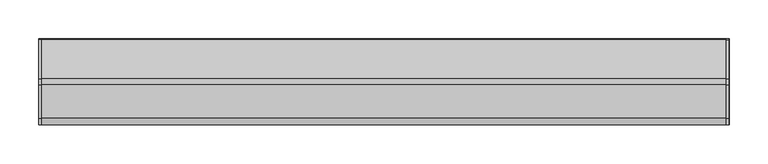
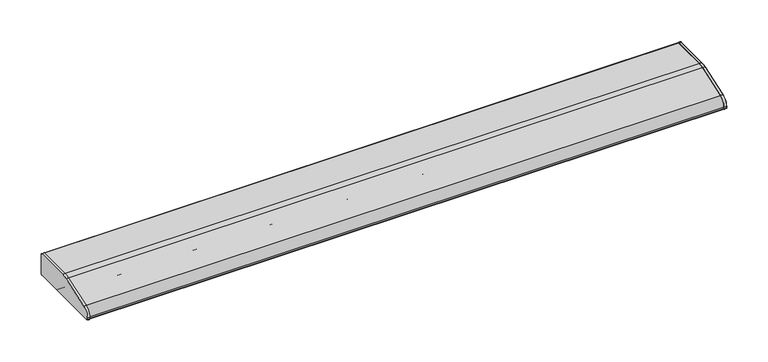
"""IFC4 building model written with IfcOpenShell, lengths in millimetres: light fixture geometry, HermanMiller_SupplementalProducts_G6136_UtilityTaskLight : AO Etho Canvas 42W."""

import ifcopenshell
import ifcopenshell.guid

model = None  # the IFC model being written
_history = None  # IfcOwnerHistory: only IFC2X3 demands one
_inside = {}  # id of a spatial element -> (the spatial element, [elements in it])
_under = {}  # id of a project, library or spatial element -> (it, [spatial elements below it])
_declared = {}  # id of a project -> (the project, [libraries it declares])
_typed = {}  # id of a type object -> (the type object, [elements of that type])
_made_of = {}  # id of a material, layer set ... -> (it, [elements and type objects made of it])


def new_model(schema):
    """Start an empty IFC model of exactly this schema.

    Asked for "IFC4X3", IfcOpenShell would pick the latest addendum, in which some entities
    have other attributes; the version numbers below select the first issue.
    IFC2X3 requires an IfcOwnerHistory on every rooted entity: one is made here for all.
    """
    global model, _history
    if schema == "IFC4X3":
        model = ifcopenshell.file(schema_version=(4, 3, 0, 0))
    else:
        model = ifcopenshell.file(schema=schema)
    _inside.clear()
    _under.clear()
    _declared.clear()
    _typed.clear()
    _made_of.clear()
    _history = None
    if model.schema == "IFC2X3":
        org = make("IfcOrganization", Name="unknown")
        user = make(
            "IfcPersonAndOrganization",
            ThePerson=make("IfcPerson", FamilyName="unknown"),
            TheOrganization=org,
        )
        app = make(
            "IfcApplication",
            ApplicationDeveloper=org,
            Version="unknown",
            ApplicationFullName="unknown",
            ApplicationIdentifier="unknown",
        )
        _history = make(
            "IfcOwnerHistory",
            OwningUser=user,
            OwningApplication=app,
            ChangeAction="ADDED",
            CreationDate=0,
        )
    return model


def make(cls, **values):
    """One entity of the class cls with the attributes given. An attribute that is None is left unset."""
    return model.create_entity(
        cls, **{name: value for name, value in values.items() if value is not None}
    )


def rooted(cls, **values):
    """An entity with a GlobalId (a new one), such as an element, a storey or a relation."""
    return make(cls, GlobalId=ifcopenshell.guid.new(), OwnerHistory=_history, **values)


def si_unit(unit_type, name, prefix=None):
    """IfcSIUnit, for example si_unit("LENGTHUNIT", "METRE", prefix="MILLI")."""
    return make("IfcSIUnit", UnitType=unit_type, Prefix=prefix, Name=name)


def assignment(units):
    """IfcUnitAssignment: the units of a project."""
    return None if units is None else make("IfcUnitAssignment", Units=units)


def point(xyz):
    """IfcCartesianPoint."""
    return None if xyz is None else make("IfcCartesianPoint", Coordinates=xyz)


def direction(xyz):
    """IfcDirection."""
    return None if xyz is None else make("IfcDirection", DirectionRatios=xyz)


def frame(location, z_axis=None, x_axis=None):
    """IfcAxis2Placement3D, a coordinate frame: its origin and axes. An axis left out is left unset."""
    return make(
        "IfcAxis2Placement3D",
        Location=point(location),
        Axis=direction(z_axis),
        RefDirection=direction(x_axis),
    )


def frame_2d(location, x_axis=None):
    """IfcAxis2Placement2D, a coordinate frame in the plane: its origin and x axis."""
    return make(
        "IfcAxis2Placement2D", Location=point(location), RefDirection=direction(x_axis)
    )


def origin():
    """The frame at (0, 0, 0) with its axes left unset."""
    return frame((0.0, 0.0, 0.0))


def place(relative_to, where):
    """IfcLocalPlacement: puts the frame where relative to a parent placement (None: the world)."""
    return make(
        "IfcLocalPlacement", PlacementRelTo=relative_to, RelativePlacement=where
    )


def context(
    kind, dimensions, precision=None, world=None, true_north=None, identifier=None
):
    """IfcGeometricRepresentationContext, for example the 3D "Model" context."""
    return make(
        "IfcGeometricRepresentationContext",
        ContextIdentifier=identifier,
        ContextType=kind,
        CoordinateSpaceDimension=dimensions,
        Precision=precision,
        WorldCoordinateSystem=world,
        TrueNorth=true_north,
    )


def project(units=None, contexts=None):
    """IfcProject with its units and contexts."""
    return rooted(
        "IfcProject",
        Name="project",
        RepresentationContexts=contexts,
        UnitsInContext=assignment(units),
    )


def spatial(cls, under=None, at=None, **own):
    """A site, building, storey or space (cls), placed at a placement, below another one or the project."""
    s = rooted(cls, ObjectPlacement=at, **own)
    if under is not None:
        _under.setdefault(under.id(), (under, []))[1].append(s)
    return s


def polyline(points):
    """IfcPolyline through the points."""
    return make("IfcPolyline", Points=[point(p) for p in points])


def circle_curve(where, radius):
    """IfcCircle in the frame where."""
    return make("IfcCircle", Position=where, Radius=radius)


def trimmed(basis, trim1, trim2, sense, master):
    """IfcTrimmedCurve: the piece of a basis curve between two trims."""
    return make(
        "IfcTrimmedCurve",
        BasisCurve=basis,
        Trim1=trim1,
        Trim2=trim2,
        SenseAgreement=sense,
        MasterRepresentation=master,
    )


def segment(curve, same_sense, transition):
    """IfcCompositeCurveSegment."""
    return make(
        "IfcCompositeCurveSegment",
        Transition=transition,
        SameSense=same_sense,
        ParentCurve=curve,
    )


def composite_curve(segments, self_intersect=None):
    """IfcCompositeCurve: segments joined end to end."""
    return make("IfcCompositeCurve", Segments=segments, SelfIntersect=self_intersect)


def outline(outer, holes=None, kind="AREA"):
    """IfcArbitraryClosedProfileDef: a profile drawn as a closed curve; with holes, ...WithVoids."""
    if holes is None:
        return make("IfcArbitraryClosedProfileDef", ProfileType=kind, OuterCurve=outer)
    return make(
        "IfcArbitraryProfileDefWithVoids",
        ProfileType=kind,
        OuterCurve=outer,
        InnerCurves=holes,
    )


def extrude(swept, where, along, depth):
    """IfcExtrudedAreaSolid: the profile swept, set in the frame where, extruded along a direction by depth."""
    return make(
        "IfcExtrudedAreaSolid",
        SweptArea=swept,
        Position=where,
        ExtrudedDirection=direction(along),
        Depth=depth,
    )


def shape(context_of_items, identifier, shape_type, items):
    """IfcShapeRepresentation: the items that make up one representation, for example the "Body"."""
    return make(
        "IfcShapeRepresentation",
        ContextOfItems=context_of_items,
        RepresentationIdentifier=identifier,
        RepresentationType=shape_type,
        Items=items,
    )


def source(mapping_origin, context_of_items, identifier, shape_type, items):
    """IfcRepresentationMap: a shape defined once, which mapped items show again and again."""
    return make(
        "IfcRepresentationMap",
        MappingOrigin=mapping_origin,
        MappedRepresentation=shape(context_of_items, identifier, shape_type, items),
    )


def transform(
    local_origin,
    x_axis=None,
    y_axis=None,
    z_axis=None,
    scale=None,
    scale2=None,
    scale3=None,
    uniform=True,
):
    """IfcCartesianTransformationOperator3D, or its non-uniform kind. x_axis, y_axis, z_axis: its Axis1, 2, 3."""
    if uniform:
        return make(
            "IfcCartesianTransformationOperator3D",
            Axis1=direction(x_axis),
            Axis2=direction(y_axis),
            LocalOrigin=point(local_origin),
            Scale=scale,
            Axis3=direction(z_axis),
        )
    return make(
        "IfcCartesianTransformationOperator3DnonUniform",
        Axis1=direction(x_axis),
        Axis2=direction(y_axis),
        LocalOrigin=point(local_origin),
        Scale=scale,
        Axis3=direction(z_axis),
        Scale2=scale2,
        Scale3=scale3,
    )


def mapped(mapping_source, mapping_target):
    """IfcMappedItem: shows the shape of a source again, moved by a transform."""
    return make(
        "IfcMappedItem", MappingSource=mapping_source, MappingTarget=mapping_target
    )


def made_of(thing, what):
    """Note that an element or type object is made of a material, layer set ...; save() writes the relation."""
    if what is not None:
        _made_of.setdefault(what.id(), (what, []))[1].append(thing)
    return thing


def element(
    cls,
    number,
    at=None,
    inside=None,
    cuts=None,
    type_object=None,
    material=None,
    context=None,
    identifier="Body",
    shape_type=None,
    held_by="IfcProductDefinitionShape",
    body=None,
    shapes=None,
    **own,
):
    """One element of the class cls, such as IfcWall. Its Tag is "e" and its number.

    at: its placement. inside: the storey or other place that contains it. cuts: it is an
    opening in that element (IfcRelVoidsElement). A single representation is given by context,
    identifier, shape_type and body (its items); several are given by shapes. held_by: the class
    of the entity that holds the representations. save() writes the other relations.
    """
    e = rooted(cls, Tag="e%d" % number, ObjectPlacement=at, **own)
    if body is not None:
        shapes = [shape(context, identifier, shape_type, body)]
    if shapes is not None:
        e.Representation = make(held_by, Representations=shapes)
    if inside is not None:
        _inside.setdefault(inside.id(), (inside, []))[1].append(e)
    if cuts is not None:
        rooted(
            "IfcRelVoidsElement", RelatingBuildingElement=cuts, RelatedOpeningElement=e
        )
    if type_object is not None:
        _typed.setdefault(type_object.id(), (type_object, []))[1].append(e)
    return made_of(e, material)


def aggregate(whole, parts):
    """IfcRelAggregates: a whole, such as a stair, and the parts it consists of."""
    return rooted("IfcRelAggregates", RelatingObject=whole, RelatedObjects=parts)


def save(model, path):
    """Write the relations noted so far, then the file.

    IfcRelAggregates (storeys below a building ...), IfcRelContainedInSpatialStructure (elements
    in a storey), IfcRelDefinesByType, IfcRelAssociatesMaterial and IfcRelDeclares: one each for
    every whole, place, type object, material and project.
    """
    for whole, parts in _under.values():
        aggregate(whole, parts)
    for where, things in _inside.values():
        rooted(
            "IfcRelContainedInSpatialStructure",
            RelatedElements=things,
            RelatingStructure=where,
        )
    for kind, things in _typed.values():
        rooted("IfcRelDefinesByType", RelatedObjects=things, RelatingType=kind)
    for what, things in _made_of.values():
        rooted("IfcRelAssociatesMaterial", RelatedObjects=things, RelatingMaterial=what)
    for by, libraries in _declared.values():
        rooted("IfcRelDeclares", RelatingContext=by, RelatedDefinitions=libraries)
    model.write(path)


def light_fixture_5a12cc18(model_context):
    return source(origin(), model_context, "Body", "SweptSolid", [
        extrude(outline(composite_curve([segment(polyline([(53.975, 1270.0), (-53.975, 1270.0)]), True, "CONTINUOUS"), segment(trimmed(circle_curve(frame_2d((-53.975, 1271.5875)), 1.5875), [point((-53.975, 1270.0))], [point((-55.5625, 1271.5875))], False, "CARTESIAN"), True, "CONTINUOUS"), segment(polyline([(-55.5625, 1271.5875), (-55.5625, 1273.6285714)]), True, "CONTINUOUS"), segment(trimmed(circle_curve(frame_2d((-42.8625, 1273.6285714)), 12.7), [point((-55.5625, 1273.6285714))], [point((-46.9814189, 1285.6420849))], False, "CARTESIAN"), True, "CONTINUOUS"), segment(polyline([(-46.9814189, 1285.6420849), (-4.0045045, 1300.377027)]), True, "CONTINUOUS"), segment(trimmed(circle_curve(frame_2d((4.2333333, 1276.35)), 25.4), [point((-4.0045045, 1300.377027))], [point((4.2333333, 1301.75))], False, "CARTESIAN"), True, "CONTINUOUS"), segment(polyline([(4.2333333, 1301.75), (53.975, 1301.75)]), True, "CONTINUOUS"), segment(trimmed(circle_curve(frame_2d((53.975, 1300.1625)), 1.5875), [point((53.975, 1301.75))], [point((55.5625, 1300.1625))], False, "CARTESIAN"), True, "CONTINUOUS"), segment(polyline([(55.5625, 1300.1625), (55.5625, 1271.5875)]), True, "CONTINUOUS"), segment(trimmed(circle_curve(frame_2d((53.975, 1271.5875)), 1.5875), [point((55.5625, 1271.5875))], [point((53.975, 1270.0))], False, "CARTESIAN"), True, "CONTINUOUS")], self_intersect=False)), frame((441.833, 0.0, 0.0), z_axis=(1.0, 0.0, 0.0), x_axis=(0.0, 1.0, 0.0)), (0.0, 0.0, 1.0), 3.175),
        extrude(outline(composite_curve([segment(trimmed(circle_curve(frame_2d((53.975, 1300.1625)), 1.5875), [point((53.975, 1301.75))], [point((55.5625, 1300.1625))], False, "CARTESIAN"), True, "CONTINUOUS"), segment(polyline([(55.5625, 1300.1625), (55.5625, 1271.5875)]), True, "CONTINUOUS"), segment(trimmed(circle_curve(frame_2d((53.975, 1271.5875)), 1.5875), [point((55.5625, 1271.5875))], [point((53.975, 1270.0))], False, "CARTESIAN"), True, "CONTINUOUS"), segment(polyline([(53.975, 1270.0), (-53.975, 1270.0)]), True, "CONTINUOUS"), segment(trimmed(circle_curve(frame_2d((-53.975, 1271.5875)), 1.5875), [point((-53.975, 1270.0))], [point((-55.5625, 1271.5875))], False, "CARTESIAN"), True, "CONTINUOUS"), segment(polyline([(-55.5625, 1271.5875), (-55.5625, 1273.6285714)]), True, "CONTINUOUS"), segment(trimmed(circle_curve(frame_2d((-42.8625, 1273.6285714)), 12.7), [point((-55.5625, 1273.6285714))], [point((-46.9814189, 1285.6420849))], False, "CARTESIAN"), True, "CONTINUOUS"), segment(polyline([(-46.9814189, 1285.6420849), (-4.0045045, 1300.377027)]), True, "CONTINUOUS"), segment(trimmed(circle_curve(frame_2d((4.2333333, 1276.35)), 25.4), [point((-4.0045045, 1300.377027))], [point((4.2333333, 1301.75))], False, "CARTESIAN"), True, "CONTINUOUS"), segment(polyline([(4.2333333, 1301.75), (53.975, 1301.75)]), True, "CONTINUOUS")], self_intersect=False)), frame((-445.008, 0.0, 0.0), z_axis=(1.0, 0.0, 0.0), x_axis=(0.0, 1.0, 0.0)), (0.0, 0.0, 1.0), 3.175),
        extrude(outline(composite_curve([segment(polyline([(55.5625, 1300.1625), (55.5625, 1271.5875)]), True, "CONTINUOUS"), segment(trimmed(circle_curve(frame_2d((53.975, 1271.5875)), 1.5875), [point((55.5625, 1271.5875))], [point((53.975, 1270.0))], False, "CARTESIAN"), True, "CONTINUOUS"), segment(polyline([(53.975, 1270.0), (19.05, 1270.0)]), True, "CONTINUOUS"), segment(trimmed(circle_curve(frame_2d((19.05, 1271.5875)), 1.5875), [point((19.05, 1270.0))], [point((17.4625, 1271.5875))], False, "CARTESIAN"), True, "CONTINUOUS"), segment(polyline([(17.4625, 1271.5875), (17.4625, 1300.1625), (4.4979167, 1300.1625)]), True, "CONTINUOUS"), segment(trimmed(circle_curve(frame_2d((4.4979167, 1274.7625)), 25.4), [point((4.4979167, 1300.1625))], [point((-3.7399212, 1298.789527))], True, "CARTESIAN"), True, "CONTINUOUS"), segment(polyline([(-3.7399212, 1298.789527), (-37.4564189, 1287.2295849)]), True, "CONTINUOUS"), segment(trimmed(circle_curve(frame_2d((-33.3375, 1275.2160714)), 12.7), [point((-37.4564189, 1287.2295849))], [point((-46.0375, 1275.2160714))], True, "CARTESIAN"), True, "CONTINUOUS"), segment(polyline([(-46.0375, 1275.2160714), (-46.0375, 1271.5875)]), True, "CONTINUOUS"), segment(trimmed(circle_curve(frame_2d((-47.625, 1271.5875)), 1.5875), [point((-46.0375, 1271.5875))], [point((-47.625, 1270.0))], False, "CARTESIAN"), True, "CONTINUOUS"), segment(polyline([(-47.625, 1270.0), (-53.975, 1270.0)]), True, "CONTINUOUS"), segment(trimmed(circle_curve(frame_2d((-53.975, 1271.5875)), 1.5875), [point((-53.975, 1270.0))], [point((-55.5625, 1271.5875))], False, "CARTESIAN"), True, "CONTINUOUS"), segment(polyline([(-55.5625, 1271.5875), (-55.5625, 1273.6285714)]), True, "CONTINUOUS"), segment(trimmed(circle_curve(frame_2d((-42.8625, 1273.6285714)), 12.7), [point((-55.5625, 1273.6285714))], [point((-46.9814189, 1285.6420849))], False, "CARTESIAN"), True, "CONTINUOUS"), segment(polyline([(-46.9814189, 1285.6420849), (-4.0045045, 1300.377027)]), True, "CONTINUOUS"), segment(trimmed(circle_curve(frame_2d((4.2333333, 1276.35)), 25.4), [point((-4.0045045, 1300.377027))], [point((4.2333333, 1301.75))], False, "CARTESIAN"), True, "CONTINUOUS"), segment(polyline([(4.2333333, 1301.75), (53.975, 1301.75)]), True, "CONTINUOUS"), segment(trimmed(circle_curve(frame_2d((53.975, 1300.1625)), 1.5875), [point((53.975, 1301.75))], [point((55.5625, 1300.1625))], False, "CARTESIAN"), True, "CONTINUOUS")], self_intersect=False)), frame((-445.008, 0.0, 0.0), z_axis=(1.0, 0.0, 0.0), x_axis=(0.0, 1.0, 0.0)), (0.0, 0.0, 1.0), 890.4820011),
        extrude(outline(composite_curve([segment(trimmed(circle_curve(frame_2d((1.5875, 1287.4625)), 9.525), [point((-7.9375, 1287.4625))], [point((11.1125, 1287.4625))], False, "CARTESIAN"), True, "CONTINUOUS"), segment(trimmed(circle_curve(frame_2d((1.5875, 1287.4625)), 9.525), [point((11.1125, 1287.4625))], [point((-7.9375, 1287.4625))], False, "CARTESIAN"), True, "CONTINUOUS")], self_intersect=False)), frame((419.608, 0.0, 0.0), z_axis=(1.0, 0.0, 0.0), x_axis=(0.0, 1.0, 0.0)), (0.0, 0.0, 1.0), 12.7),
        extrude(outline(composite_curve([segment(trimmed(circle_curve(frame_2d((1.5875, 1287.4625)), 9.525), [point((-7.9375, 1287.4625))], [point((11.1125, 1287.4625))], False, "CARTESIAN"), True, "CONTINUOUS"), segment(trimmed(circle_curve(frame_2d((1.5875, 1287.4625)), 9.525), [point((11.1125, 1287.4625))], [point((-7.9375, 1287.4625))], False, "CARTESIAN"), True, "CONTINUOUS")], self_intersect=False)), frame((-432.308, 0.0, 0.0), z_axis=(1.0, 0.0, 0.0), x_axis=(0.0, 1.0, 0.0)), (0.0, 0.0, 1.0), 12.7),
        extrude(outline(composite_curve([segment(trimmed(circle_curve(frame_2d((1.5875, 1287.4625)), 9.525), [point((-7.9375, 1287.4625))], [point((11.1125, 1287.4625))], False, "CARTESIAN"), True, "CONTINUOUS"), segment(trimmed(circle_curve(frame_2d((1.5875, 1287.4625)), 9.525), [point((11.1125, 1287.4625))], [point((-7.9375, 1287.4625))], False, "CARTESIAN"), True, "CONTINUOUS")], self_intersect=False)), frame((-419.608, 0.0, 0.0), z_axis=(1.0, 0.0, 0.0), x_axis=(0.0, 1.0, 0.0)), (0.0, 0.0, 1.0), 839.216),
        extrude(outline(composite_curve([segment(polyline([(17.4625, 1273.175), (-46.0375, 1273.175), (-46.0375, 1275.2160714)]), True, "CONTINUOUS"), segment(trimmed(circle_curve(frame_2d((-33.3375, 1275.2160714)), 12.7), [point((-46.0375, 1275.2160714))], [point((-37.4564189, 1287.2295849))], False, "CARTESIAN"), True, "CONTINUOUS"), segment(polyline([(-37.4564189, 1287.2295849), (-3.7399212, 1298.789527)]), True, "CONTINUOUS"), segment(trimmed(circle_curve(frame_2d((4.4979167, 1274.7625)), 25.4), [point((-3.7399212, 1298.789527))], [point((4.4979167, 1300.1625))], False, "CARTESIAN"), True, "CONTINUOUS"), segment(polyline([(4.4979167, 1300.1625), (17.4625, 1300.1625), (17.4625, 1273.175)]), True, "CONTINUOUS")], self_intersect=False)), frame((432.308, 0.0, 0.0), z_axis=(1.0, 0.0, 0.0), x_axis=(0.0, 1.0, 0.0)), (0.0, 0.0, 1.0), 9.525),
        extrude(outline(composite_curve([segment(polyline([(17.4625, 1273.175), (-46.0375, 1273.175), (-46.0375, 1275.2160714)]), True, "CONTINUOUS"), segment(trimmed(circle_curve(frame_2d((-33.3375, 1275.2160714)), 12.7), [point((-46.0375, 1275.2160714))], [point((-37.4564189, 1287.2295849))], False, "CARTESIAN"), True, "CONTINUOUS"), segment(polyline([(-37.4564189, 1287.2295849), (-3.7399212, 1298.789527)]), True, "CONTINUOUS"), segment(trimmed(circle_curve(frame_2d((4.4979167, 1274.7625)), 25.4), [point((-3.7399212, 1298.789527))], [point((4.4979167, 1300.1625))], False, "CARTESIAN"), True, "CONTINUOUS"), segment(polyline([(4.4979167, 1300.1625), (17.4625, 1300.1625), (17.4625, 1273.175)]), True, "CONTINUOUS")], self_intersect=False)), frame((-441.833, 0.0, 0.0), z_axis=(1.0, 0.0, 0.0), x_axis=(0.0, 1.0, 0.0)), (0.0, 0.0, 1.0), 9.525),
    ])


if __name__ == "__main__":
    model = new_model("IFC4")
    model_context = context("Model", 3, world=origin())
    ifc_project = project(units=[si_unit("LENGTHUNIT", "METRE", prefix="MILLI")], contexts=[model_context])
    site = spatial("IfcSite", under=ifc_project)
    building = spatial("IfcBuilding", under=site)
    placement = place(None, origin())
    light_fixture_shape = light_fixture_5a12cc18(model_context)
    element("IfcLightFixture", 1, ObjectType="HermanMiller_SupplementalProducts_G6136_UtilityTaskLight : AO Etho Canvas 42W", at=placement, inside=building, context=model_context, shape_type="MappedRepresentation", body=[
        mapped(light_fixture_shape, transform((0.0, 0.0, 0.0), x_axis=(1.0, 0.0, 0.0), y_axis=(0.0, 1.0, 0.0), z_axis=(0.0, 0.0, 1.0))),
    ])
    save(model, "model.ifc")
